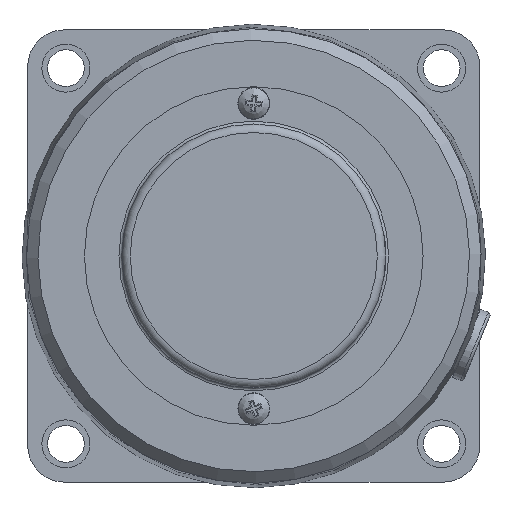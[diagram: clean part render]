
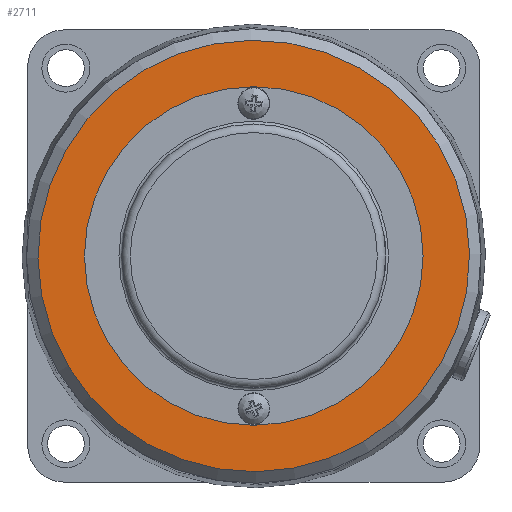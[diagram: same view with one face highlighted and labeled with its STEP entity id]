
A CAD part, left-side view. The second image highlights one B-rep face of the part: STEP entity #2711.
In plain terms, the highlighted planar face has unit normal (-1, 0, 0).
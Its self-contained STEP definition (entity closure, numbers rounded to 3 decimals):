
#201=CIRCLE('',#3009,38.171);
#424=FACE_OUTER_BOUND('',#610,.T.);
#610=EDGE_LOOP('',(#2301));
#1237=VERTEX_POINT('',#4820);
#1592=EDGE_CURVE('',#1237,#1237,#201,.T.);
#2301=ORIENTED_EDGE('',*,*,#1592,.F.);
#2413=PLANE('',#3012);
#2711=ADVANCED_FACE('',(#424),#2413,.T.);
#3009=AXIS2_PLACEMENT_3D('',#4822,#3734,#3735);
#3012=AXIS2_PLACEMENT_3D('',#4827,#3741,#3742);
#3734=DIRECTION('center_axis',(1.,0.,0.));
#3735=DIRECTION('ref_axis',(0.,-0.861,0.509));
#3741=DIRECTION('center_axis',(-1.,0.,0.));
#3742=DIRECTION('ref_axis',(0.,-0.861,0.509));
#4820=CARTESIAN_POINT('',(-39.,32.851,-19.439));
#4822=CARTESIAN_POINT('Origin',(-39.,0.,
0.));
#4827=CARTESIAN_POINT('Origin',(-39.,0.,
0.));
